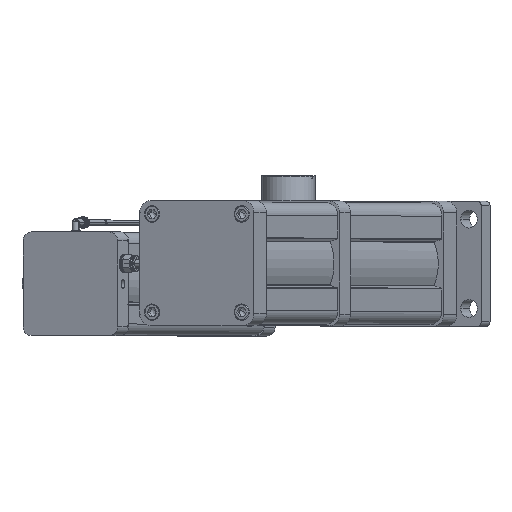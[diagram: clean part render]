
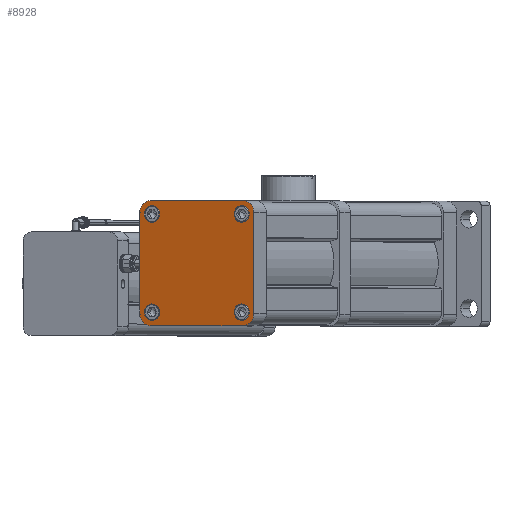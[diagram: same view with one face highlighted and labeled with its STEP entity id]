
A CAD part, top view. The second image highlights one B-rep face of the part: STEP entity #8928.
In plain terms, the highlighted planar face has unit normal (-0.41, 0, 0.912) as drawn and (0, 0, 1) by its records, which use the part's own axes.
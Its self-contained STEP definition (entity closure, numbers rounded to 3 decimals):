
#8621=CARTESIAN_POINT('Vertex',(45.75,55.,956.)) ;
#8624=CARTESIAN_POINT('Axis2P3D Location',(55.,55.,956.)) ;
#8628=CARTESIAN_POINT('Vertex',(64.25,55.,956.)) ;
#8643=CARTESIAN_POINT('Axis2P3D Location',(55.,55.,956.)) ;
#8683=CARTESIAN_POINT('Vertex',(45.75,-55.,956.)) ;
#8686=CARTESIAN_POINT('Axis2P3D Location',(55.,-55.,956.)) ;
#8690=CARTESIAN_POINT('Vertex',(64.25,-55.,956.)) ;
#8705=CARTESIAN_POINT('Axis2P3D Location',(55.,-55.,956.)) ;
#8745=CARTESIAN_POINT('Vertex',(-64.25,55.,956.)) ;
#8748=CARTESIAN_POINT('Axis2P3D Location',(-55.,55.,956.)) ;
#8752=CARTESIAN_POINT('Vertex',(-45.75,55.,956.)) ;
#8767=CARTESIAN_POINT('Axis2P3D Location',(-55.,55.,956.)) ;
#8807=CARTESIAN_POINT('Vertex',(-64.25,-55.,956.)) ;
#8810=CARTESIAN_POINT('Axis2P3D Location',(-55.,-55.,956.)) ;
#8814=CARTESIAN_POINT('Vertex',(-45.75,-55.,956.)) ;
#8829=CARTESIAN_POINT('Axis2P3D Location',(-55.,-55.,956.)) ;
#8841=CARTESIAN_POINT('Axis2P3D Location',(0.,0.,956.)) ;
#8846=CARTESIAN_POINT('Line Origine',(0.,-70.,956.)) ;
#8850=CARTESIAN_POINT('Vertex',(-57.,-70.,956.)) ;
#8852=CARTESIAN_POINT('Vertex',(57.,-70.,956.)) ;
#8855=CARTESIAN_POINT('Axis2P3D Location',(57.,-57.,956.)) ;
#8859=CARTESIAN_POINT('Vertex',(70.,-57.,956.)) ;
#8862=CARTESIAN_POINT('Line Origine',(70.,0.,956.)) ;
#8866=CARTESIAN_POINT('Vertex',(70.,57.,956.)) ;
#8869=CARTESIAN_POINT('Axis2P3D Location',(57.,57.,956.)) ;
#8873=CARTESIAN_POINT('Vertex',(57.,70.,956.)) ;
#8876=CARTESIAN_POINT('Line Origine',(0.,70.,956.)) ;
#8880=CARTESIAN_POINT('Vertex',(-57.,70.,956.)) ;
#8883=CARTESIAN_POINT('Axis2P3D Location',(-57.,57.,956.)) ;
#8887=CARTESIAN_POINT('Vertex',(-70.,57.,956.)) ;
#8890=CARTESIAN_POINT('Line Origine',(-70.,0.,956.)) ;
#8894=CARTESIAN_POINT('Vertex',(-70.,-57.,956.)) ;
#8897=CARTESIAN_POINT('Axis2P3D Location',(-57.,-57.,956.)) ;
#8625=DIRECTION('Axis2P3D Direction',(0.,0.,1.)) ;
#8644=DIRECTION('Axis2P3D Direction',(0.,0.,1.)) ;
#8687=DIRECTION('Axis2P3D Direction',(0.,0.,1.)) ;
#8706=DIRECTION('Axis2P3D Direction',(0.,0.,1.)) ;
#8749=DIRECTION('Axis2P3D Direction',(0.,0.,1.)) ;
#8768=DIRECTION('Axis2P3D Direction',(0.,0.,1.)) ;
#8811=DIRECTION('Axis2P3D Direction',(0.,0.,1.)) ;
#8830=DIRECTION('Axis2P3D Direction',(0.,0.,1.)) ;
#8842=DIRECTION('Axis2P3D Direction',(0.,0.,1.)) ;
#8843=DIRECTION('Axis2P3D XDirection',(1.,0.,0.)) ;
#8847=DIRECTION('Vector Direction',(-1.,0.,0.)) ;
#8856=DIRECTION('Axis2P3D Direction',(0.,0.,1.)) ;
#8863=DIRECTION('Vector Direction',(0.,-1.,0.)) ;
#8870=DIRECTION('Axis2P3D Direction',(0.,0.,1.)) ;
#8877=DIRECTION('Vector Direction',(1.,0.,0.)) ;
#8884=DIRECTION('Axis2P3D Direction',(0.,0.,1.)) ;
#8891=DIRECTION('Vector Direction',(0.,1.,0.)) ;
#8898=DIRECTION('Axis2P3D Direction',(0.,0.,1.)) ;
#8626=AXIS2_PLACEMENT_3D('Circle Axis2P3D',#8624,#8625,$) ;
#8645=AXIS2_PLACEMENT_3D('Circle Axis2P3D',#8643,#8644,$) ;
#8688=AXIS2_PLACEMENT_3D('Circle Axis2P3D',#8686,#8687,$) ;
#8707=AXIS2_PLACEMENT_3D('Circle Axis2P3D',#8705,#8706,$) ;
#8750=AXIS2_PLACEMENT_3D('Circle Axis2P3D',#8748,#8749,$) ;
#8769=AXIS2_PLACEMENT_3D('Circle Axis2P3D',#8767,#8768,$) ;
#8812=AXIS2_PLACEMENT_3D('Circle Axis2P3D',#8810,#8811,$) ;
#8831=AXIS2_PLACEMENT_3D('Circle Axis2P3D',#8829,#8830,$) ;
#8844=AXIS2_PLACEMENT_3D('Plane Axis2P3D',#8841,#8842,#8843) ;
#8857=AXIS2_PLACEMENT_3D('Circle Axis2P3D',#8855,#8856,$) ;
#8871=AXIS2_PLACEMENT_3D('Circle Axis2P3D',#8869,#8870,$) ;
#8885=AXIS2_PLACEMENT_3D('Circle Axis2P3D',#8883,#8884,$) ;
#8899=AXIS2_PLACEMENT_3D('Circle Axis2P3D',#8897,#8898,$) ;
#8903=ORIENTED_EDGE('',*,*,#8854,.T.) ;
#8904=ORIENTED_EDGE('',*,*,#8861,.F.) ;
#8905=ORIENTED_EDGE('',*,*,#8868,.T.) ;
#8906=ORIENTED_EDGE('',*,*,#8875,.F.) ;
#8907=ORIENTED_EDGE('',*,*,#8882,.T.) ;
#8908=ORIENTED_EDGE('',*,*,#8889,.F.) ;
#8909=ORIENTED_EDGE('',*,*,#8896,.T.) ;
#8910=ORIENTED_EDGE('',*,*,#8901,.F.) ;
#8913=ORIENTED_EDGE('',*,*,#8647,.F.) ;
#8914=ORIENTED_EDGE('',*,*,#8630,.F.) ;
#8917=ORIENTED_EDGE('',*,*,#8771,.F.) ;
#8918=ORIENTED_EDGE('',*,*,#8754,.F.) ;
#8921=ORIENTED_EDGE('',*,*,#8833,.F.) ;
#8922=ORIENTED_EDGE('',*,*,#8816,.F.) ;
#8925=ORIENTED_EDGE('',*,*,#8709,.F.) ;
#8926=ORIENTED_EDGE('',*,*,#8692,.F.) ;
#8915=FACE_BOUND('',#8912,.T.) ;
#8919=FACE_BOUND('',#8916,.T.) ;
#8923=FACE_BOUND('',#8920,.T.) ;
#8927=FACE_BOUND('',#8924,.T.) ;
#8848=VECTOR('Line Direction',#8847,1.) ;
#8864=VECTOR('Line Direction',#8863,1.) ;
#8878=VECTOR('Line Direction',#8877,1.) ;
#8892=VECTOR('Line Direction',#8891,1.) ;
#8928=ADVANCED_FACE('PartBody',(#8911,#8915,#8919,#8923,#8927),#8845,.T.) ;
#8627=CIRCLE('generated circle',#8626,9.25) ;
#8646=CIRCLE('generated circle',#8645,9.25) ;
#8689=CIRCLE('generated circle',#8688,9.25) ;
#8708=CIRCLE('generated circle',#8707,9.25) ;
#8751=CIRCLE('generated circle',#8750,9.25) ;
#8770=CIRCLE('generated circle',#8769,9.25) ;
#8813=CIRCLE('generated circle',#8812,9.25) ;
#8832=CIRCLE('generated circle',#8831,9.25) ;
#8858=CIRCLE('generated circle',#8857,13.) ;
#8872=CIRCLE('generated circle',#8871,13.) ;
#8886=CIRCLE('generated circle',#8885,13.) ;
#8900=CIRCLE('generated circle',#8899,13.) ;
#8630=EDGE_CURVE('',#8622,#8629,#8627,.T.) ;
#8647=EDGE_CURVE('',#8629,#8622,#8646,.T.) ;
#8692=EDGE_CURVE('',#8684,#8691,#8689,.T.) ;
#8709=EDGE_CURVE('',#8691,#8684,#8708,.T.) ;
#8754=EDGE_CURVE('',#8746,#8753,#8751,.T.) ;
#8771=EDGE_CURVE('',#8753,#8746,#8770,.T.) ;
#8816=EDGE_CURVE('',#8808,#8815,#8813,.T.) ;
#8833=EDGE_CURVE('',#8815,#8808,#8832,.T.) ;
#8854=EDGE_CURVE('',#8851,#8853,#8849,.F.) ;
#8861=EDGE_CURVE('',#8860,#8853,#8858,.F.) ;
#8868=EDGE_CURVE('',#8860,#8867,#8865,.F.) ;
#8875=EDGE_CURVE('',#8874,#8867,#8872,.F.) ;
#8882=EDGE_CURVE('',#8874,#8881,#8879,.F.) ;
#8889=EDGE_CURVE('',#8888,#8881,#8886,.F.) ;
#8896=EDGE_CURVE('',#8888,#8895,#8893,.F.) ;
#8901=EDGE_CURVE('',#8851,#8895,#8900,.F.) ;
#8902=EDGE_LOOP('',(#8903,#8904,#8905,#8906,#8907,#8908,#8909,#8910)) ;
#8912=EDGE_LOOP('',(#8913,#8914)) ;
#8916=EDGE_LOOP('',(#8917,#8918)) ;
#8920=EDGE_LOOP('',(#8921,#8922)) ;
#8924=EDGE_LOOP('',(#8925,#8926)) ;
#8911=FACE_OUTER_BOUND('',#8902,.T.) ;
#8849=LINE('Line',#8846,#8848) ;
#8865=LINE('Line',#8862,#8864) ;
#8879=LINE('Line',#8876,#8878) ;
#8893=LINE('Line',#8890,#8892) ;
#8845=PLANE('',#8844) ;
#8622=VERTEX_POINT('',#8621) ;
#8629=VERTEX_POINT('',#8628) ;
#8684=VERTEX_POINT('',#8683) ;
#8691=VERTEX_POINT('',#8690) ;
#8746=VERTEX_POINT('',#8745) ;
#8753=VERTEX_POINT('',#8752) ;
#8808=VERTEX_POINT('',#8807) ;
#8815=VERTEX_POINT('',#8814) ;
#8851=VERTEX_POINT('',#8850) ;
#8853=VERTEX_POINT('',#8852) ;
#8860=VERTEX_POINT('',#8859) ;
#8867=VERTEX_POINT('',#8866) ;
#8874=VERTEX_POINT('',#8873) ;
#8881=VERTEX_POINT('',#8880) ;
#8888=VERTEX_POINT('',#8887) ;
#8895=VERTEX_POINT('',#8894) ;
